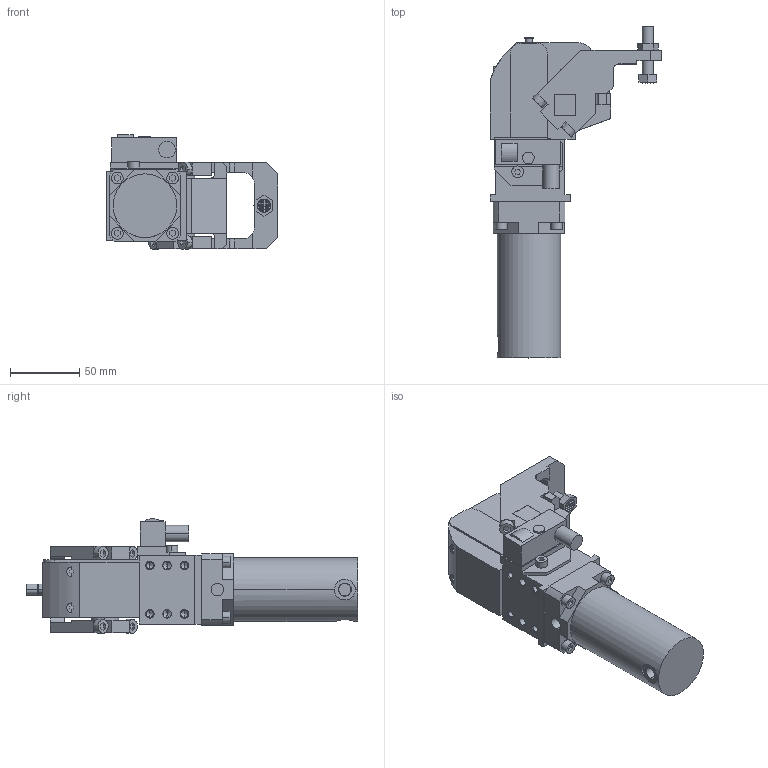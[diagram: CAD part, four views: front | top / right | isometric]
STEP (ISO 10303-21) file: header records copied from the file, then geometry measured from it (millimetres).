
FILE_DESCRIPTION (( 'STEP AP214' ), '1' );
FILE_NAME ('g40.1_g1__a.STEP', '2014-03-17T09:49:56', ( 'vep' ), ( 'TOSHIBA' ), 'SwSTEP 2.0', 'SolidWorks 2013', '' );
FILE_SCHEMA (( 'AUTOMOTIVE_DESIGN' ));
Length unit declared in the file: millimetre
Products named in the file (7): g40.1_g1__a; piedino_zigrinato_M8x35_3_329; g40.1_leva_g1; blocchetto_p&f_90; g40.1_cilindro; g40.1_corpo; dado_basso_m8_din936_1_154
Assembly tree (6 placements, depth 2):
  g40.1_g1__a
    g40.1_corpo
    g40.1_cilindro
    blocchetto_p&f_90
    g40.1_leva_g1
    piedino_zigrinato_M8x35_3_329
    dado_basso_m8_din936_1_154
Bounding box: 124 x 240 x 82.8 mm (x, y, z)
Volume: 597438.5 mm3; surface area: 92233.8 mm2
Topology: 6 solids, 6 shells, 575 faces, 1414 edges, 884 vertices
Faces by surface type: plane 398, cylinder 125, cone 52
Entity records: 17887 total; most frequent: CARTESIAN_POINT 3227, DIRECTION 2816, ORIENTED_EDGE 2780, EDGE_CURVE 1390, LINE 1018, VECTOR 1018, AXIS2_PLACEMENT_3D 899, VERTEX_POINT 884
